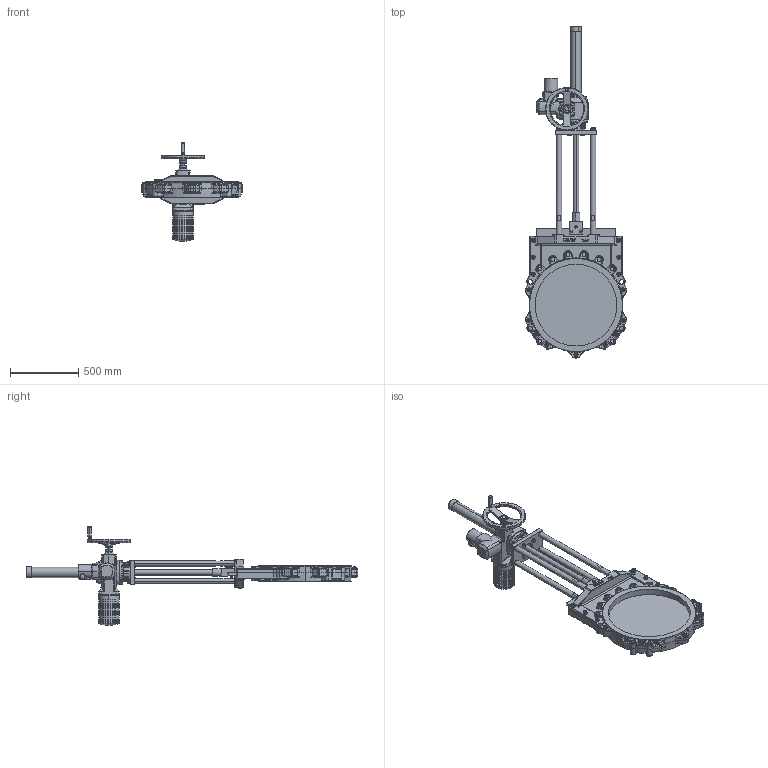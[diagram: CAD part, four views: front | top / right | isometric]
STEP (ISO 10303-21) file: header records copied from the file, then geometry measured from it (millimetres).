
FILE_DESCRIPTION (( 'STEP AP214' ), '1' );
FILE_NAME ('VSE DN 0600.STEP', '2015-09-23T11:24:36', ( 'admin' ), ( 'Hewlett-Packard Company' ), 'SwSTEP 2.0', 'SolidWorks 2013', '' );
FILE_SCHEMA (( 'AUTOMOTIVE_DESIGN' ));
Length unit declared in the file: millimetre
Products named in the file (1): VSE DN 0600
Bounding box: 747.34 x 2433.97 x 725 mm (x, y, z)
Volume: 55956749.5 mm3; surface area: 3843157 mm2
Topology: 84 solids, 97 shells, 3718 faces, 8607 edges, 5009 vertices
Faces by surface type: plane 1088, cylinder 1051, cone 604, bspline 527, torus 428, sphere 20
Entity records: 181927 total; most frequent: CARTESIAN_POINT 59981, ORIENTED_EDGE 16766, DIRECTION 16666, EDGE_CURVE 8383, AXIS2_PLACEMENT_3D 6936, VERTEX_POINT 5001, EDGE_LOOP 4034, UNCERTAINTY_MEASURE_WITH_UNIT 3802
